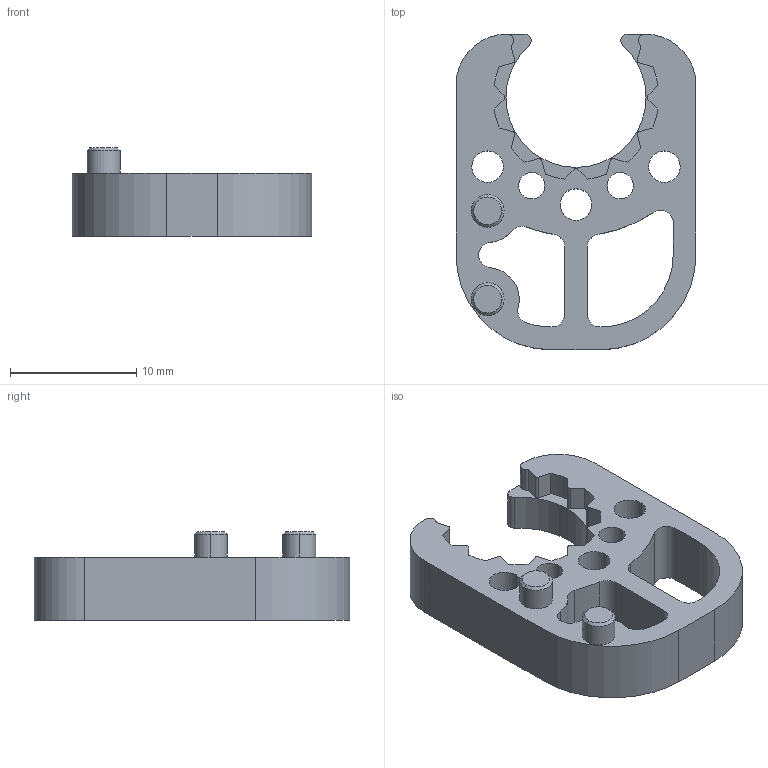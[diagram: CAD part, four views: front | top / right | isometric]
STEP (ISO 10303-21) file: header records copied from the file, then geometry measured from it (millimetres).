
FILE_DESCRIPTION(('CATIA V5 STEP Exchange'),'2;1');
FILE_NAME('G:\够快云库\系统集成开发部\1.部门成员\孙国\座椅速降阀\R20\翘板\STP\BPC0010218 翘板速降阀固定座.stp','2021-10-22T08:11:42+00:00',('none'),('none'),'CATIA Version 5 Release 20 GA (IN-10)','CATIA V5 STEP AP214','none');
FILE_SCHEMA(('AUTOMOTIVE_DESIGN { 1 0 10303 214 1 1 1 1 }'));
Length unit declared in the file: millimetre
Products named in the file (1): BPC0010218-翘板速降阀固定座
Bounding box: 19 x 25 x 7 mm (x, y, z)
Volume: 1193 mm3; surface area: 1467.5 mm2
Topology: 1 solids, 1 shells, 97 faces, 277 edges, 184 vertices
Faces by surface type: cylinder 59, plane 34, cone 4
Entity records: 3035 total; most frequent: ORIENTED_EDGE 554, CARTESIAN_POINT 537, DIRECTION 427, EDGE_CURVE 277, AXIS2_PLACEMENT_3D 198, VERTEX_POINT 184, VECTOR 155, LINE 155
